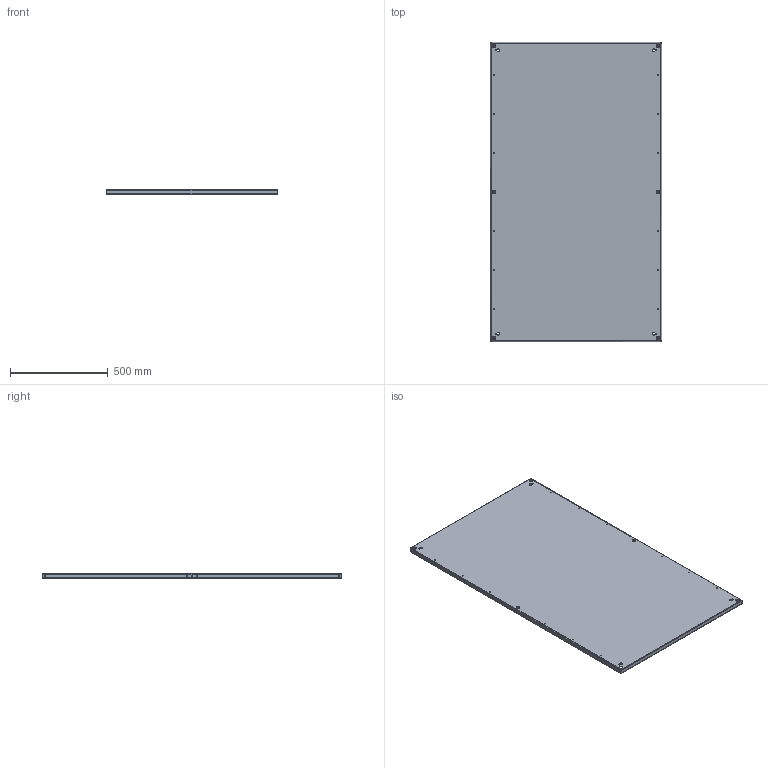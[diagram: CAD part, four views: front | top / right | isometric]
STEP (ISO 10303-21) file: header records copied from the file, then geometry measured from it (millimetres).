
FILE_DESCRIPTION(('STEP AP203'), '1');
FILE_NAME('Ïàíåëü ìîíòàæíàÿ Â1600õØ1000 ìì OptiBox M 421771 ÊÝÀÇ', '', ('UNSPECIFIED'), ('UNSPECIFIED'), 'C3D Converter', 'C3D Toolkit', '');
FILE_SCHEMA(('CONFIG_CONTROL_DESIGN'));
Length unit declared in the file: millimetre
Bounding box: 878 x 1533 x 25 mm (x, y, z)
Volume: 3052150.2 mm3; surface area: 3064585.5 mm2
Topology: 1 solids, 1 shells, 128 faces, 314 edges, 188 vertices
Faces by surface type: cylinder 58, plane 54, bspline 16
Full cylindrical faces by diameter (mm): 4.6 x24, 7.3 x2, 9 x6, 18 x6
Entity records: 6032 total; most frequent: CARTESIAN_POINT 3037, ORIENTED_EDGE 552, DIRECTION 550, EDGE_CURVE 276, EDGE_LOOP 250, AXIS2_PLACEMENT_3D 197, VERTEX_POINT 188, FACE_BOUND 174
